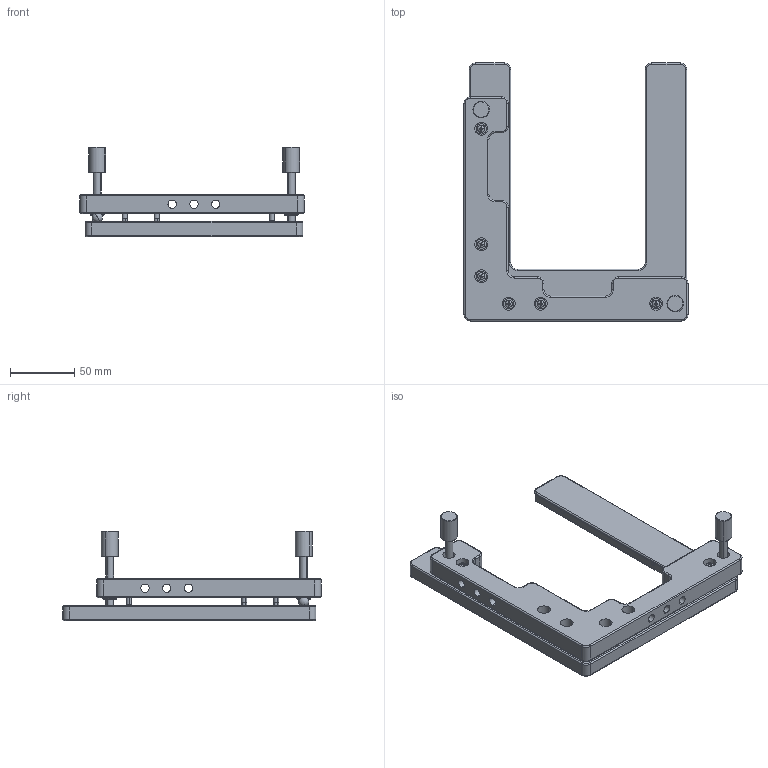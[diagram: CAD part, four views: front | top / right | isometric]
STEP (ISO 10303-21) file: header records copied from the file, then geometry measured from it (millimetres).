
FILE_DESCRIPTION (( 'STEP AP203' ), '1' );
FILE_NAME ('7MM17160謗峎覃淕噩殤.STEP', '2020-06-05T08:45:11', ( '' ), ( '' ), 'SwSTEP 2.0', 'SolidWorks 2018', '' );
FILE_SCHEMA (( 'CONFIG_CONTROL_DESIGN' ));
Length unit declared in the file: millimetre
Products named in the file (1): 7MM17160謗峎覃淕噩殤
Bounding box: 175 x 201.5 x 70 mm (x, y, z)
Volume: 319779 mm3; surface area: 94021 mm2
Topology: 51 solids, 51 shells, 909 faces, 2122 edges, 1331 vertices
Faces by surface type: cylinder 392, plane 323, cone 104, torus 50, sphere 40
Entity records: 26290 total; most frequent: CARTESIAN_POINT 4921, DIRECTION 4871, ORIENTED_EDGE 4182, EDGE_CURVE 2091, AXIS2_PLACEMENT_3D 2024, VERTEX_POINT 1318, CIRCLE 1114, EDGE_LOOP 1035
